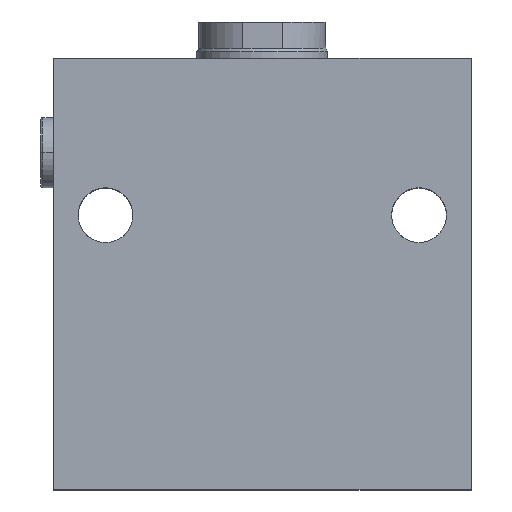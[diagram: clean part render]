
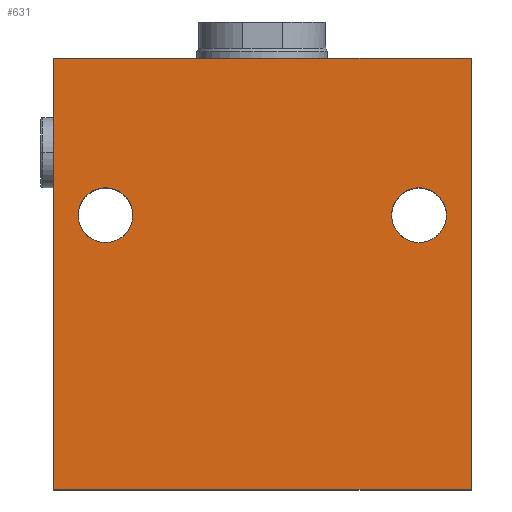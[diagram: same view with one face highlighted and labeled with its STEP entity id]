
A CAD part, top view. The second image highlights one B-rep face of the part: STEP entity #631.
In plain terms, the highlighted planar face has unit normal (0, 0, 1).
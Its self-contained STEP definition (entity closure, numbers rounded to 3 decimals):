
#42 = ORIENTED_EDGE ( 'NONE', *, *, #1758, .F. ) ;
#59 = CIRCLE ( 'NONE', #3665, 10.5 ) ;
#197 = CARTESIAN_POINT ( 'NONE',  ( 49.5, 105., 60. ) ) ;
#198 = VECTOR ( 'NONE', #1413, 1000. ) ;
#217 = EDGE_CURVE ( 'NONE', #4048, #3384, #3397, .T. ) ;
#225 = VERTEX_POINT ( 'NONE', #843 ) ;
#241 = DIRECTION ( 'NONE',  ( 1., 0., 0. ) ) ;
#355 = DIRECTION ( 'NONE',  ( 0., 0., 1. ) ) ;
#458 = VERTEX_POINT ( 'NONE', #1354 ) ;
#464 = PLANE ( 'NONE',  #1221 ) ;
#480 = AXIS2_PLACEMENT_3D ( 'NONE', #1271, #2627, #2301 ) ;
#486 = DIRECTION ( 'NONE',  ( -1., 0., 0. ) ) ;
#598 = DIRECTION ( 'NONE',  ( 0., 0., 1. ) ) ;
#631 = ADVANCED_FACE ( 'NONE', ( #3448, #2267, #2782 ), #464, .F. ) ;
#780 = ORIENTED_EDGE ( 'NONE', *, *, #3501, .T. ) ;
#836 = DIRECTION ( 'NONE',  ( 0., 0., 1. ) ) ;
#843 = CARTESIAN_POINT ( 'NONE',  ( -70.5, 105., 60. ) ) ;
#900 = CARTESIAN_POINT ( 'NONE',  ( -60., 105., 60. ) ) ;
#919 = LINE ( 'NONE', #2500, #2604 ) ;
#1213 = CARTESIAN_POINT ( 'NONE',  ( 60., 105., 60. ) ) ;
#1221 = AXIS2_PLACEMENT_3D ( 'NONE', #4162, #3157, #486 ) ;
#1240 = CIRCLE ( 'NONE', #480, 10.5 ) ;
#1271 = CARTESIAN_POINT ( 'NONE',  ( -60., 105., 60. ) ) ;
#1286 = DIRECTION ( 'NONE',  ( 1., 0., 0. ) ) ;
#1289 = CIRCLE ( 'NONE', #3659, 10.5 ) ;
#1293 = VECTOR ( 'NONE', #4061, 1000. ) ;
#1342 = LINE ( 'NONE', #2638, #3338 ) ;
#1354 = CARTESIAN_POINT ( 'NONE',  ( -80., 165., 60. ) ) ;
#1364 = VERTEX_POINT ( 'NONE', #2777 ) ;
#1413 = DIRECTION ( 'NONE',  ( 0., -1., 0. ) ) ;
#1420 = EDGE_CURVE ( 'NONE', #3521, #1898, #2734, .T. ) ;
#1649 = EDGE_CURVE ( 'NONE', #458, #3521, #1342, .T. ) ;
#1758 = EDGE_CURVE ( 'NONE', #2289, #225, #1240, .T. ) ;
#1785 = CARTESIAN_POINT ( 'NONE',  ( -49.5, 105., 60. ) ) ;
#1898 = VERTEX_POINT ( 'NONE', #2055 ) ;
#1920 = CARTESIAN_POINT ( 'NONE',  ( 60., 105., 60. ) ) ;
#2055 = CARTESIAN_POINT ( 'NONE',  ( 80., 0., 60. ) ) ;
#2056 = ORIENTED_EDGE ( 'NONE', *, *, #1420, .F. ) ;
#2154 = DIRECTION ( 'NONE',  ( 1., 0., 0. ) ) ;
#2201 = EDGE_CURVE ( 'NONE', #225, #2289, #1289, .T. ) ;
#2267 = FACE_BOUND ( 'NONE', #3312, .T. ) ;
#2289 = VERTEX_POINT ( 'NONE', #1785 ) ;
#2301 = DIRECTION ( 'NONE',  ( 1., 0., 0. ) ) ;
#2359 = EDGE_LOOP ( 'NONE', ( #780, #2056, #3023, #3190 ) ) ;
#2473 = CARTESIAN_POINT ( 'NONE',  ( 70.5, 105., 60. ) ) ;
#2500 = CARTESIAN_POINT ( 'NONE',  ( -80., 0., 60. ) ) ;
#2578 = DIRECTION ( 'NONE',  ( 1., 0., 0. ) ) ;
#2604 = VECTOR ( 'NONE', #2154, 1000. ) ;
#2605 = ORIENTED_EDGE ( 'NONE', *, *, #2201, .F. ) ;
#2627 = DIRECTION ( 'NONE',  ( 0., 0., 1. ) ) ;
#2638 = CARTESIAN_POINT ( 'NONE',  ( -80., 165., 60. ) ) ;
#2699 = AXIS2_PLACEMENT_3D ( 'NONE', #1920, #598, #241 ) ;
#2734 = LINE ( 'NONE', #2768, #198 ) ;
#2768 = CARTESIAN_POINT ( 'NONE',  ( 80., 85., 60. ) ) ;
#2777 = CARTESIAN_POINT ( 'NONE',  ( -80., 0., 60. ) ) ;
#2782 = FACE_OUTER_BOUND ( 'NONE', #2359, .T. ) ;
#2831 = LINE ( 'NONE', #3052, #1293 ) ;
#3023 = ORIENTED_EDGE ( 'NONE', *, *, #1649, .F. ) ;
#3052 = CARTESIAN_POINT ( 'NONE',  ( -80., 85., 60. ) ) ;
#3157 = DIRECTION ( 'NONE',  ( 0., 0., -1. ) ) ;
#3190 = ORIENTED_EDGE ( 'NONE', *, *, #3984, .T. ) ;
#3312 = EDGE_LOOP ( 'NONE', ( #42, #2605 ) ) ;
#3338 = VECTOR ( 'NONE', #1286, 1000. ) ;
#3384 = VERTEX_POINT ( 'NONE', #197 ) ;
#3394 = DIRECTION ( 'NONE',  ( 1., 0., 0. ) ) ;
#3397 = CIRCLE ( 'NONE', #2699, 10.5 ) ;
#3448 = FACE_BOUND ( 'NONE', #3555, .T. ) ;
#3501 = EDGE_CURVE ( 'NONE', #1364, #1898, #919, .T. ) ;
#3521 = VERTEX_POINT ( 'NONE', #3816 ) ;
#3555 = EDGE_LOOP ( 'NONE', ( #3683, #4361 ) ) ;
#3600 = EDGE_CURVE ( 'NONE', #3384, #4048, #59, .T. ) ;
#3659 = AXIS2_PLACEMENT_3D ( 'NONE', #900, #355, #3394 ) ;
#3665 = AXIS2_PLACEMENT_3D ( 'NONE', #1213, #836, #2578 ) ;
#3683 = ORIENTED_EDGE ( 'NONE', *, *, #217, .F. ) ;
#3816 = CARTESIAN_POINT ( 'NONE',  ( 80., 165., 60. ) ) ;
#3984 = EDGE_CURVE ( 'NONE', #458, #1364, #2831, .T. ) ;
#4048 = VERTEX_POINT ( 'NONE', #2473 ) ;
#4061 = DIRECTION ( 'NONE',  ( 0., -1., 0. ) ) ;
#4162 = CARTESIAN_POINT ( 'NONE',  ( -80., 85., 60. ) ) ;
#4361 = ORIENTED_EDGE ( 'NONE', *, *, #3600, .F. ) ;
